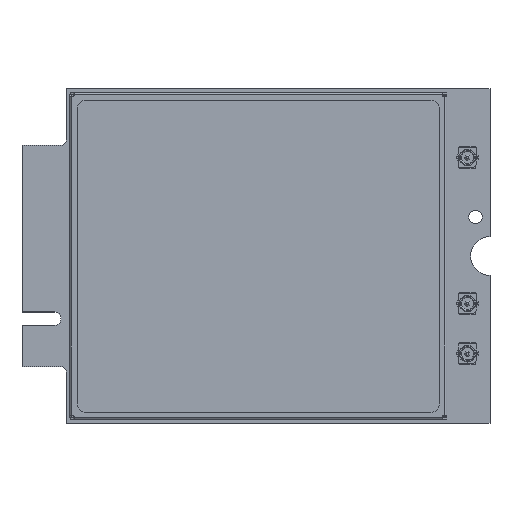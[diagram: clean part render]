
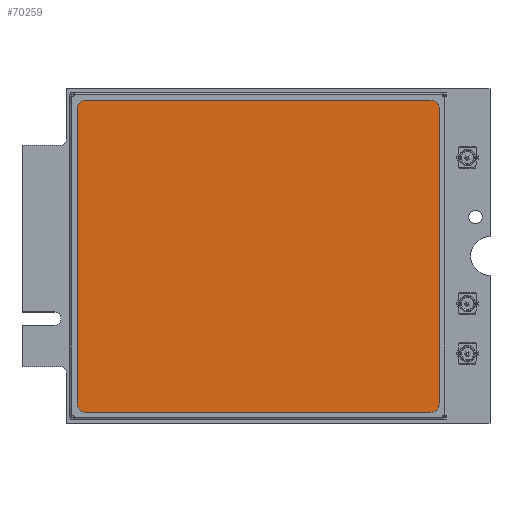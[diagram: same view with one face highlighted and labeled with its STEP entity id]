
A CAD part, top view. The second image highlights one B-rep face of the part: STEP entity #70259.
In plain terms, the highlighted planar face has unit normal (0, 0, 1) as drawn and (0, 1, 0) by its records, which use the part's own axes.
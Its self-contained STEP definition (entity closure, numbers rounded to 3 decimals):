
#70040=CARTESIAN_POINT('',(-13.25,0.05,-15.5));
#70041=DIRECTION('',(0.,1.,0.));
#70042=DIRECTION('',(0.,0.,-1.));
#70043=AXIS2_PLACEMENT_3D('',#70040,#70041,#70042);
#70045=DIRECTION('',(-1.,0.,0.));
#70046=VECTOR('',#70045,26.5);
#70047=CARTESIAN_POINT('',(13.25,0.05,-16.25));
#70048=LINE('',#70047,#70046);
#70049=CARTESIAN_POINT('',(13.25,0.05,-15.5));
#70050=DIRECTION('',(0.,1.,0.));
#70051=DIRECTION('',(1.,0.,0.));
#70052=AXIS2_PLACEMENT_3D('',#70049,#70050,#70051);
#70054=DIRECTION('',(0.,0.,-1.));
#70055=VECTOR('',#70054,31.);
#70056=CARTESIAN_POINT('',(14.,0.05,15.5));
#70057=LINE('',#70056,#70055);
#70058=CARTESIAN_POINT('',(13.25,0.05,15.5));
#70059=DIRECTION('',(0.,1.,0.));
#70060=DIRECTION('',(0.,0.,1.));
#70061=AXIS2_PLACEMENT_3D('',#70058,#70059,#70060);
#70063=DIRECTION('',(1.,0.,0.));
#70064=VECTOR('',#70063,26.5);
#70065=CARTESIAN_POINT('',(-13.25,0.05,16.25));
#70066=LINE('',#70065,#70064);
#70067=CARTESIAN_POINT('',(-13.25,0.05,15.5));
#70068=DIRECTION('',(0.,1.,0.));
#70069=DIRECTION('',(-1.,0.,0.));
#70070=AXIS2_PLACEMENT_3D('',#70067,#70068,#70069);
#70072=DIRECTION('',(0.,0.,1.));
#70073=VECTOR('',#70072,31.);
#70074=CARTESIAN_POINT('',(-14.,0.05,-15.5));
#70075=LINE('',#70074,#70073);
#70092=CARTESIAN_POINT('',(-14.,0.05,-15.5));
#70093=CARTESIAN_POINT('',(-14.,0.05,15.5));
#70094=VERTEX_POINT('',#70092);
#70095=VERTEX_POINT('',#70093);
#70096=CARTESIAN_POINT('',(-13.25,0.05,16.25));
#70097=CARTESIAN_POINT('',(13.25,0.05,16.25));
#70098=VERTEX_POINT('',#70096);
#70099=VERTEX_POINT('',#70097);
#70100=CARTESIAN_POINT('',(14.,0.05,15.5));
#70101=CARTESIAN_POINT('',(14.,0.05,-15.5));
#70102=VERTEX_POINT('',#70100);
#70103=VERTEX_POINT('',#70101);
#70104=CARTESIAN_POINT('',(13.25,0.05,-16.25));
#70105=CARTESIAN_POINT('',(-13.25,0.05,-16.25));
#70106=VERTEX_POINT('',#70104);
#70107=VERTEX_POINT('',#70105);
#70244=CARTESIAN_POINT('',(0.,0.05,0.));
#70245=DIRECTION('',(0.,1.,0.));
#70246=DIRECTION('',(1.,0.,0.));
#70247=AXIS2_PLACEMENT_3D('',#70244,#70245,#70246);
#70248=PLANE('',#70247);
#70249=ORIENTED_EDGE('',*,*,#70140,.F.);
#70250=ORIENTED_EDGE('',*,*,#70155,.F.);
#70251=ORIENTED_EDGE('',*,*,#70169,.F.);
#70252=ORIENTED_EDGE('',*,*,#70183,.F.);
#70253=ORIENTED_EDGE('',*,*,#70197,.F.);
#70254=ORIENTED_EDGE('',*,*,#70211,.F.);
#70255=ORIENTED_EDGE('',*,*,#70225,.F.);
#70256=ORIENTED_EDGE('',*,*,#70238,.F.);
#70257=EDGE_LOOP('',(#70249,#70250,#70251,#70252,#70253,#70254,#70255,#70256));
#70258=FACE_OUTER_BOUND('',#70257,.F.);
#70044=CIRCLE('',#70043,0.75);
#70053=CIRCLE('',#70052,0.75);
#70062=CIRCLE('',#70061,0.75);
#70071=CIRCLE('',#70070,0.75);
#70140=EDGE_CURVE('',#70107,#70094,#70044,.T.);
#70155=EDGE_CURVE('',#70106,#70107,#70048,.T.);
#70169=EDGE_CURVE('',#70103,#70106,#70053,.T.);
#70183=EDGE_CURVE('',#70102,#70103,#70057,.T.);
#70197=EDGE_CURVE('',#70099,#70102,#70062,.T.);
#70211=EDGE_CURVE('',#70098,#70099,#70066,.T.);
#70225=EDGE_CURVE('',#70095,#70098,#70071,.T.);
#70238=EDGE_CURVE('',#70094,#70095,#70075,.T.);
#70259=ADVANCED_FACE('',(#70258),#70248,.T.);
